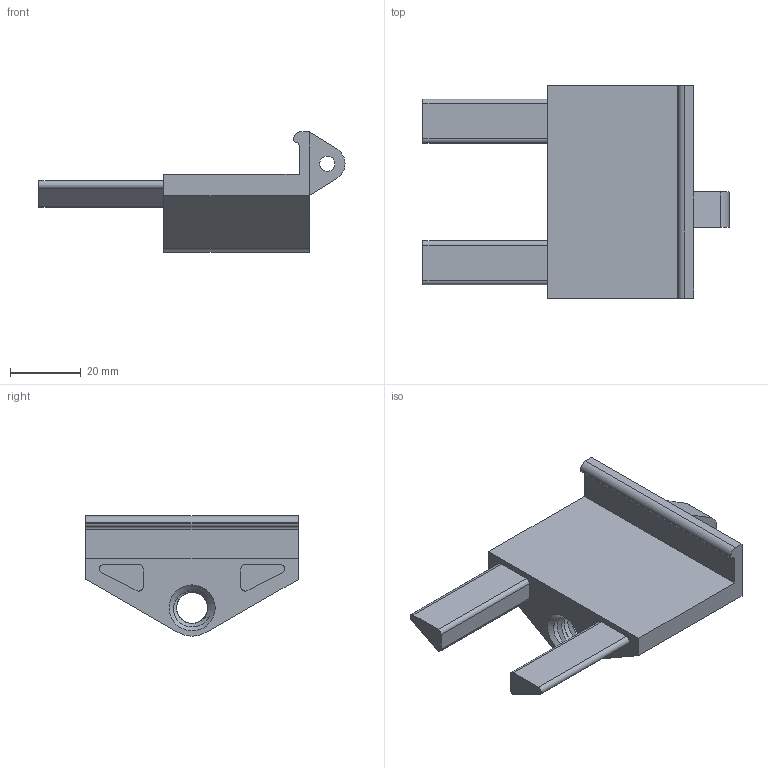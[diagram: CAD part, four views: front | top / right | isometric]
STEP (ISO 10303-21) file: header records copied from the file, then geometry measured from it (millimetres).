
FILE_DESCRIPTION(/* description */ ('STEP AP242 Edition 2','CAx-IF Rec.Pracs.---Representation and Presentation of Product Manufacturing Information (PMI)---4.0---2014-10-13','CAx-IF Rec.Pracs.---3D Tessellated Geometry---0.4---2014-09-14','2;1','CAx-IF Rec.Pracs.---User Defined Attributes---1.5---2016-08-15'),/* implementation_level */ '2;1');
FILE_NAME(/* name */ 'Assembly 1 - Phone Holder Female',/* time_stamp */ '2026-06-23T19:13:03Z',/* author */ (''),/* organization */ (''),/* preprocessor_version */ 'ST-DEVELOPER v20',/* originating_system */ 'ONSHAPE BY PTC INC, 1.216',/* authorisation */ ' ');
FILE_SCHEMA (('AP242_MANAGED_MODEL_BASED_3D_ENGINEERING_MIM_LF { 1 0 10303 442 3 1 4 }'));
Length unit declared in the file: metre
Products named in the file (1): Phone Holder Female
Bounding box: 86.5 x 60 x 34 mm (x, y, z)
Volume: 40407.9 mm3; surface area: 13558.8 mm2
Topology: 1 solids, 1 shells, 44 faces, 112 edges, 74 vertices
Faces by surface type: plane 25, cylinder 15, bspline 3, cone 1
Full cylindrical faces by diameter (mm): 4.3 x1, 6 x1, 8 x1
Entity records: 5265 total; most frequent: CARTESIAN_POINT 4187, ORIENTED_EDGE 214, DIRECTION 212, EDGE_CURVE 107, VERTEX_POINT 73, AXIS2_PLACEMENT_3D 73, LINE 66, VECTOR 66
